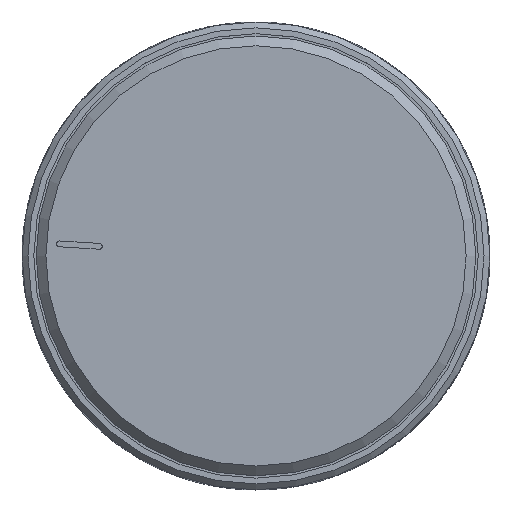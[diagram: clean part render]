
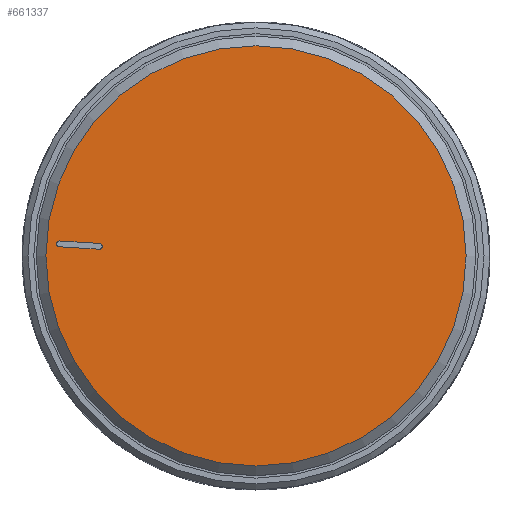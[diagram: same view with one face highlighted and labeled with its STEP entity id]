
A CAD part, top view. The second image highlights one B-rep face of the part: STEP entity #661337.
In plain terms, the highlighted planar face has unit normal (0, 0, 1).
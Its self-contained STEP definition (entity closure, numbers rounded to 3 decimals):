
#661270 = CONICAL_SURFACE('',#661271,11.28,0.785);
#661271 = AXIS2_PLACEMENT_3D('',#661272,#661273,#661274);
#661272 = CARTESIAN_POINT('',(0.,0.,5.65));
#661273 = DIRECTION('',(-0.,-0.,-1.));
#661274 = DIRECTION('',(1.,0.,-0.));
#661288 = VERTEX_POINT('',#661289);
#661289 = CARTESIAN_POINT('',(10.78,0.,6.15));
#661310 = EDGE_CURVE('',#661288,#661288,#661311,.T.);
#661311 = SURFACE_CURVE('',#661312,(#661317,#661324),.PCURVE_S1.);
#661312 = CIRCLE('',#661313,10.78);
#661313 = AXIS2_PLACEMENT_3D('',#661314,#661315,#661316);
#661314 = CARTESIAN_POINT('',(0.,0.,6.15));
#661315 = DIRECTION('',(0.,0.,1.));
#661316 = DIRECTION('',(1.,0.,-0.));
#661317 = PCURVE('',#661270,#661318);
#661318 = DEFINITIONAL_REPRESENTATION('',(#661319),#661323);
#661319 = LINE('',#661320,#661321);
#661320 = CARTESIAN_POINT('',(-0.,-0.5));
#661321 = VECTOR('',#661322,1.);
#661322 = DIRECTION('',(-1.,-0.));
#661323 = ( GEOMETRIC_REPRESENTATION_CONTEXT(2) 
PARAMETRIC_REPRESENTATION_CONTEXT() REPRESENTATION_CONTEXT('2D SPACE',''
  ) );
#661324 = PCURVE('',#661325,#661330);
#661325 = PLANE('',#661326);
#661326 = AXIS2_PLACEMENT_3D('',#661327,#661328,#661329);
#661327 = CARTESIAN_POINT('',(0.,0.,6.15));
#661328 = DIRECTION('',(0.,0.,1.));
#661329 = DIRECTION('',(1.,0.,-0.));
#661330 = DEFINITIONAL_REPRESENTATION('',(#661331),#661335);
#661331 = CIRCLE('',#661332,10.78);
#661332 = AXIS2_PLACEMENT_2D('',#661333,#661334);
#661333 = CARTESIAN_POINT('',(0.,0.));
#661334 = DIRECTION('',(1.,0.));
#661335 = ( GEOMETRIC_REPRESENTATION_CONTEXT(2) 
PARAMETRIC_REPRESENTATION_CONTEXT() REPRESENTATION_CONTEXT('2D SPACE',''
  ) );
#661337 = ADVANCED_FACE('',(#661338,#661341),#661325,.T.);
#661338 = FACE_BOUND('',#661339,.T.);
#661339 = EDGE_LOOP('',(#661340));
#661340 = ORIENTED_EDGE('',*,*,#661310,.T.);
#661341 = FACE_BOUND('',#661342,.T.);
#661342 = EDGE_LOOP('',(#661343,#661371,#661404,#661430));
#661343 = ORIENTED_EDGE('',*,*,#661344,.F.);
#661344 = EDGE_CURVE('',#661345,#661347,#661349,.T.);
#661345 = VERTEX_POINT('',#661346);
#661346 = CARTESIAN_POINT('',(-10.09,0.467,6.15));
#661347 = VERTEX_POINT('',#661348);
#661348 = CARTESIAN_POINT('',(-8.044,0.342,6.15));
#661349 = SURFACE_CURVE('',#661350,(#661354,#661360),.PCURVE_S1.);
#661350 = LINE('',#661351,#661352);
#661351 = CARTESIAN_POINT('',(-4.027,0.096,6.15));
#661352 = VECTOR('',#661353,1.);
#661353 = DIRECTION('',(0.998,-0.061,0.));
#661354 = PCURVE('',#661325,#661355);
#661355 = DEFINITIONAL_REPRESENTATION('',(#661356),#661359);
#661356 = B_SPLINE_CURVE_WITH_KNOTS('',1,(#661357,#661358),
  .UNSPECIFIED.,.F.,.F.,(2,2),(-6.075,-4.025),.PIECEWISE_BEZIER_KNOTS.);
#661357 = CARTESIAN_POINT('',(-10.09,0.467));
#661358 = CARTESIAN_POINT('',(-8.044,0.342));
#661359 = ( GEOMETRIC_REPRESENTATION_CONTEXT(2) 
PARAMETRIC_REPRESENTATION_CONTEXT() REPRESENTATION_CONTEXT('2D SPACE',''
  ) );
#661360 = PCURVE('',#661361,#661366);
#661361 = PLANE('',#661362);
#661362 = AXIS2_PLACEMENT_3D('',#661363,#661364,#661365);
#661363 = CARTESIAN_POINT('',(-8.044,0.342,6.));
#661364 = DIRECTION('',(-0.061,-0.998,0.));
#661365 = DIRECTION('',(-0.998,0.061,0.));
#661366 = DEFINITIONAL_REPRESENTATION('',(#661367),#661370);
#661367 = B_SPLINE_CURVE_WITH_KNOTS('',1,(#661368,#661369),
  .UNSPECIFIED.,.F.,.F.,(2,2),(-6.075,-4.025),.PIECEWISE_BEZIER_KNOTS.);
#661368 = CARTESIAN_POINT('',(2.05,-0.15));
#661369 = CARTESIAN_POINT('',(0.,-0.15));
#661370 = ( GEOMETRIC_REPRESENTATION_CONTEXT(2) 
PARAMETRIC_REPRESENTATION_CONTEXT() REPRESENTATION_CONTEXT('2D SPACE',''
  ) );
#661371 = ORIENTED_EDGE('',*,*,#661372,.T.);
#661372 = EDGE_CURVE('',#661345,#661373,#661375,.T.);
#661373 = VERTEX_POINT('',#661374);
#661374 = CARTESIAN_POINT('',(-10.072,0.766,6.15));
#661375 = SURFACE_CURVE('',#661376,(#661381,#661392),.PCURVE_S1.);
#661376 = CIRCLE('',#661377,0.15);
#661377 = AXIS2_PLACEMENT_3D('',#661378,#661379,#661380);
#661378 = CARTESIAN_POINT('',(-10.081,0.617,6.15));
#661379 = DIRECTION('',(0.,-0.,-1.));
#661380 = DIRECTION('',(0.998,-0.061,0.));
#661381 = PCURVE('',#661325,#661382);
#661382 = DEFINITIONAL_REPRESENTATION('',(#661383),#661391);
#661383 = ( BOUNDED_CURVE() B_SPLINE_CURVE(2,(#661384,#661385,#661386,
    #661387,#661388,#661389,#661390),.UNSPECIFIED.,.T.,.F.) 
B_SPLINE_CURVE_WITH_KNOTS((1,2,2,2,2,1),(-2.094,0.,
    2.094,4.189,6.283,8.378),
.UNSPECIFIED.) CURVE() GEOMETRIC_REPRESENTATION_ITEM() 
RATIONAL_B_SPLINE_CURVE((1.,0.5,1.,0.5,1.,0.5,1.)) REPRESENTATION_ITEM(
  '') );
#661384 = CARTESIAN_POINT('',(-9.931,0.607));
#661385 = CARTESIAN_POINT('',(-9.947,0.348));
#661386 = CARTESIAN_POINT('',(-10.164,0.492));
#661387 = CARTESIAN_POINT('',(-10.381,0.635));
#661388 = CARTESIAN_POINT('',(-10.148,0.751));
#661389 = CARTESIAN_POINT('',(-9.916,0.867));
#661390 = CARTESIAN_POINT('',(-9.931,0.607));
#661391 = ( GEOMETRIC_REPRESENTATION_CONTEXT(2) 
PARAMETRIC_REPRESENTATION_CONTEXT() REPRESENTATION_CONTEXT('2D SPACE',''
  ) );
#661392 = PCURVE('',#661393,#661398);
#661393 = CYLINDRICAL_SURFACE('',#661394,0.15);
#661394 = AXIS2_PLACEMENT_3D('',#661395,#661396,#661397);
#661395 = CARTESIAN_POINT('',(-10.081,0.617,6.));
#661396 = DIRECTION('',(0.,-0.,-1.));
#661397 = DIRECTION('',(0.998,-0.061,0.));
#661398 = DEFINITIONAL_REPRESENTATION('',(#661399),#661403);
#661399 = LINE('',#661400,#661401);
#661400 = CARTESIAN_POINT('',(0.,-0.15));
#661401 = VECTOR('',#661402,1.);
#661402 = DIRECTION('',(1.,0.));
#661403 = ( GEOMETRIC_REPRESENTATION_CONTEXT(2) 
PARAMETRIC_REPRESENTATION_CONTEXT() REPRESENTATION_CONTEXT('2D SPACE',''
  ) );
#661404 = ORIENTED_EDGE('',*,*,#661405,.T.);
#661405 = EDGE_CURVE('',#661373,#661406,#661408,.T.);
#661406 = VERTEX_POINT('',#661407);
#661407 = CARTESIAN_POINT('',(-8.026,0.641,6.15));
#661408 = SURFACE_CURVE('',#661409,(#661413,#661419),.PCURVE_S1.);
#661409 = LINE('',#661410,#661411);
#661410 = CARTESIAN_POINT('',(-4.52,0.427,6.15));
#661411 = VECTOR('',#661412,1.);
#661412 = DIRECTION('',(0.998,-0.061,0.));
#661413 = PCURVE('',#661325,#661414);
#661414 = DEFINITIONAL_REPRESENTATION('',(#661415),#661418);
#661415 = B_SPLINE_CURVE_WITH_KNOTS('',1,(#661416,#661417),
  .UNSPECIFIED.,.F.,.F.,(2,2),(-5.563,-3.513),
  .PIECEWISE_BEZIER_KNOTS.);
#661416 = CARTESIAN_POINT('',(-10.072,0.766));
#661417 = CARTESIAN_POINT('',(-8.026,0.641));
#661418 = ( GEOMETRIC_REPRESENTATION_CONTEXT(2) 
PARAMETRIC_REPRESENTATION_CONTEXT() REPRESENTATION_CONTEXT('2D SPACE',''
  ) );
#661419 = PCURVE('',#661420,#661425);
#661420 = PLANE('',#661421);
#661421 = AXIS2_PLACEMENT_3D('',#661422,#661423,#661424);
#661422 = CARTESIAN_POINT('',(-9.049,0.704,6.));
#661423 = DIRECTION('',(-0.061,-0.998,0.));
#661424 = DIRECTION('',(-0.998,0.061,0.));
#661425 = DEFINITIONAL_REPRESENTATION('',(#661426),#661429);
#661426 = B_SPLINE_CURVE_WITH_KNOTS('',1,(#661427,#661428),
  .UNSPECIFIED.,.F.,.F.,(2,2),(-5.563,-3.513),
  .PIECEWISE_BEZIER_KNOTS.);
#661427 = CARTESIAN_POINT('',(1.025,-0.15));
#661428 = CARTESIAN_POINT('',(-1.025,-0.15));
#661429 = ( GEOMETRIC_REPRESENTATION_CONTEXT(2) 
PARAMETRIC_REPRESENTATION_CONTEXT() REPRESENTATION_CONTEXT('2D SPACE',''
  ) );
#661430 = ORIENTED_EDGE('',*,*,#661431,.T.);
#661431 = EDGE_CURVE('',#661406,#661347,#661432,.T.);
#661432 = SURFACE_CURVE('',#661433,(#661438,#661449),.PCURVE_S1.);
#661433 = CIRCLE('',#661434,0.15);
#661434 = AXIS2_PLACEMENT_3D('',#661435,#661436,#661437);
#661435 = CARTESIAN_POINT('',(-8.035,0.491,6.15));
#661436 = DIRECTION('',(0.,0.,-1.));
#661437 = DIRECTION('',(-0.998,0.061,0.));
#661438 = PCURVE('',#661325,#661439);
#661439 = DEFINITIONAL_REPRESENTATION('',(#661440),#661448);
#661440 = ( BOUNDED_CURVE() B_SPLINE_CURVE(2,(#661441,#661442,#661443,
    #661444,#661445,#661446,#661447),.UNSPECIFIED.,.T.,.F.) 
B_SPLINE_CURVE_WITH_KNOTS((1,2,2,2,2,1),(-2.094,0.,
    2.094,4.189,6.283,8.378),
.UNSPECIFIED.) CURVE() GEOMETRIC_REPRESENTATION_ITEM() 
RATIONAL_B_SPLINE_CURVE((1.,0.5,1.,0.5,1.,0.5,1.)) REPRESENTATION_ITEM(
  '') );
#661441 = CARTESIAN_POINT('',(-8.185,0.501));
#661442 = CARTESIAN_POINT('',(-8.169,0.76));
#661443 = CARTESIAN_POINT('',(-7.952,0.617));
#661444 = CARTESIAN_POINT('',(-7.736,0.473));
#661445 = CARTESIAN_POINT('',(-7.968,0.357));
#661446 = CARTESIAN_POINT('',(-8.201,0.241));
#661447 = CARTESIAN_POINT('',(-8.185,0.501));
#661448 = ( GEOMETRIC_REPRESENTATION_CONTEXT(2) 
PARAMETRIC_REPRESENTATION_CONTEXT() REPRESENTATION_CONTEXT('2D SPACE',''
  ) );
#661449 = PCURVE('',#661450,#661455);
#661450 = CYLINDRICAL_SURFACE('',#661451,0.15);
#661451 = AXIS2_PLACEMENT_3D('',#661452,#661453,#661454);
#661452 = CARTESIAN_POINT('',(-8.035,0.491,6.));
#661453 = DIRECTION('',(0.,0.,-1.));
#661454 = DIRECTION('',(-0.998,0.061,0.));
#661455 = DEFINITIONAL_REPRESENTATION('',(#661456),#661460);
#661456 = LINE('',#661457,#661458);
#661457 = CARTESIAN_POINT('',(0.,-0.15));
#661458 = VECTOR('',#661459,1.);
#661459 = DIRECTION('',(1.,0.));
#661460 = ( GEOMETRIC_REPRESENTATION_CONTEXT(2) 
PARAMETRIC_REPRESENTATION_CONTEXT() REPRESENTATION_CONTEXT('2D SPACE',''
  ) );
